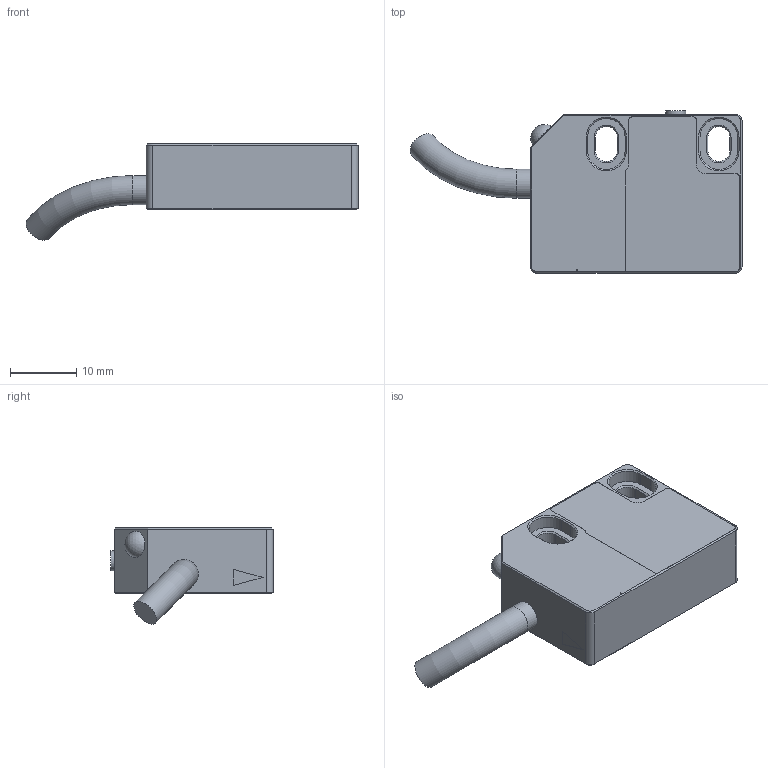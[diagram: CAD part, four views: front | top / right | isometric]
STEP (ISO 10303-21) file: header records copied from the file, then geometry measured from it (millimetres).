
FILE_DESCRIPTION(/* description */ ('','CAx-IF Rec.Pracs.---Representation and Presentation of Product Manufacturing Information (PMI)---4.0---2014-10-13'),/* implementation_level */ '2;1');
FILE_NAME(/* name */ 'C:\DESKTOP\홈페이지용 엔코더 3D 데이타 및 사진관련 자료\Linear Encoder\LE128-1000-2-V-L-5\LM10-reading-head.stp',/* time_stamp */ '2023-06-05T23:55:14+08:00',/* author */ ('hnckhn'),/* organization */ (''),/* preprocessor_version */ 'ST-DEVELOPER v18.1',/* originating_system */ 'Autodesk Inventor 2021',/* authorisation */ '');
FILE_SCHEMA (('AP242_MANAGED_MODEL_BASED_3D_ENGINEERING_MIM_LF { 1 0 10303 442 1 1 4 }'));
Length unit declared in the file: millimetre
Products named in the file (1): LM10-reading-head
Bounding box: 50.16 x 24.5 x 14.57 mm (x, y, z)
Volume: 7357.1 mm3; surface area: 3158 mm2
Topology: 2 solids, 3 shells, 130 faces, 318 edges, 219 vertices
Faces by surface type: plane 76, cylinder 27, cone 24, torus 1, sphere 1, bspline 1
Full cylindrical faces by diameter (mm): 3 x1, 4 x1, 4.4 x1
Entity records: 4119 total; most frequent: CARTESIAN_POINT 876, DIRECTION 675, ORIENTED_EDGE 598, EDGE_CURVE 299, AXIS2_PLACEMENT_3D 235, LINE 205, VECTOR 205, VERTEX_POINT 184
